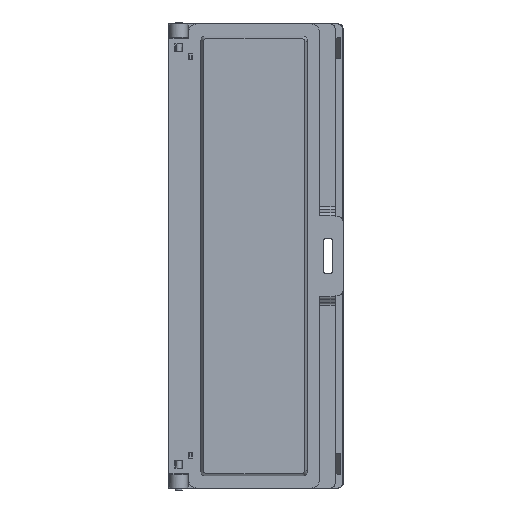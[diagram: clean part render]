
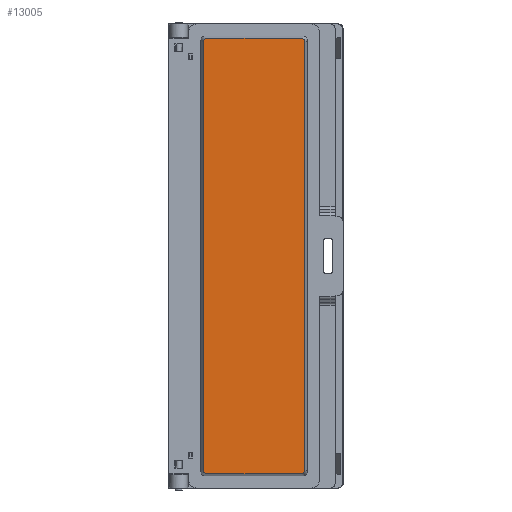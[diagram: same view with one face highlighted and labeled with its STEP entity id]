
A CAD part, front view. The second image highlights one B-rep face of the part: STEP entity #13005.
In plain terms, the highlighted planar face has unit normal (0, -1, 0) as drawn and (0, 0, 1) by its records, which use the part's own axes.
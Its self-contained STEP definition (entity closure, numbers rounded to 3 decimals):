
#228 = LINE ( 'NONE', #4889, #21027 ) ;
#741 = AXIS2_PLACEMENT_3D ( 'NONE', #25231, #2437, #17000 ) ;
#903 = CARTESIAN_POINT ( 'NONE',  ( 0., 109.8, 14.3 ) ) ;
#1207 = CARTESIAN_POINT ( 'NONE',  ( -25.7, -109.015, 14.3 ) ) ;
#1870 = CARTESIAN_POINT ( 'NONE',  ( -23.768, 109.8, 14.3 ) ) ;
#2437 = DIRECTION ( 'NONE',  ( 0., 0., -1. ) ) ;
#2567 = CARTESIAN_POINT ( 'NONE',  ( -23.768, -109.8, 14.3 ) ) ;
#2978 = CARTESIAN_POINT ( 'NONE',  ( 24.915, -109.8, 14.3 ) ) ;
#3003 = DIRECTION ( 'NONE',  ( 1., 0., 0. ) ) ;
#3312 = EDGE_CURVE ( 'NONE', #6453, #6881, #14289, .T. ) ;
#4058 = CARTESIAN_POINT ( 'NONE',  ( 23.768, 109.8, 14.3 ) ) ;
#4110 = CARTESIAN_POINT ( 'NONE',  ( 24.915, 109.8, 14.3 ) ) ;
#4489 = EDGE_CURVE ( 'NONE', #14171, #12780, #23974, .T. ) ;
#4566 = CARTESIAN_POINT ( 'NONE',  ( 25.7, 107.868, 14.3 ) ) ;
#4719 = LINE ( 'NONE', #6688, #16459 ) ;
#4731 = CARTESIAN_POINT ( 'NONE',  ( -25.7, 107.868, 14.3 ) ) ;
#4849 = EDGE_CURVE ( 'NONE', #23314, #14556, #228, .T. ) ;
#4882 = CARTESIAN_POINT ( 'NONE',  ( 25.7, -107.868, 14.3 ) ) ;
#4889 = CARTESIAN_POINT ( 'NONE',  ( 0., -109.8, 14.3 ) ) ;
#5262 = DIRECTION ( 'NONE',  ( -1., 0., 0. ) ) ;
#5378 = CARTESIAN_POINT ( 'NONE',  ( -24.915, -109.8, 14.3 ) ) ;
#6043 = CARTESIAN_POINT ( 'NONE',  ( -25.7, 107.868, 14.3 ) ) ;
#6357 = VERTEX_POINT ( 'NONE', #4882 ) ;
#6453 = VERTEX_POINT ( 'NONE', #7890 ) ;
#6615 = EDGE_CURVE ( 'NONE', #6453, #14556, #12014, .T. ) ;
#6688 = CARTESIAN_POINT ( 'NONE',  ( 25.7, 0., 14.3 ) ) ;
#6881 = VERTEX_POINT ( 'NONE', #4731 ) ;
#7149 = CARTESIAN_POINT ( 'NONE',  ( 25.7, -107.868, 14.3 ) ) ;
#7890 = CARTESIAN_POINT ( 'NONE',  ( -25.7, -107.868, 14.3 ) ) ;
#8066 = VECTOR ( 'NONE', #21919, 1000. ) ;
#8311 = ORIENTED_EDGE ( 'NONE', *, *, #10597, .F. ) ;
#8333 = VERTEX_POINT ( 'NONE', #10050 ) ;
#8364 = EDGE_CURVE ( 'NONE', #8333, #6881, #19836, .T. ) ;
#9031 = ORIENTED_EDGE ( 'NONE', *, *, #3312, .F. ) ;
#10050 = CARTESIAN_POINT ( 'NONE',  ( -23.768, 109.8, 14.3 ) ) ;
#10365 = VECTOR ( 'NONE', #3003, 1000. ) ;
#10597 = EDGE_CURVE ( 'NONE', #8333, #12780, #21417, .T. ) ;
#11194 = ORIENTED_EDGE ( 'NONE', *, *, #4489, .T. ) ;
#12014 =( BOUNDED_CURVE ( )  B_SPLINE_CURVE ( 3, ( #26115, #1207, #5378, #19936 ),
 .UNSPECIFIED., .F., .T. ) 
 B_SPLINE_CURVE_WITH_KNOTS ( ( 4, 4 ),
 ( 2.39, 3.893 ),
 .UNSPECIFIED. ) 
 CURVE ( )  GEOMETRIC_REPRESENTATION_ITEM ( )  RATIONAL_B_SPLINE_CURVE ( ( 1., 0.82, 0.82, 1. ) ) 
 REPRESENTATION_ITEM ( '' )  );
#12780 = VERTEX_POINT ( 'NONE', #24263 ) ;
#13005 = ADVANCED_FACE ( 'NONE', ( #25030 ), #14915, .F. ) ;
#14171 = VERTEX_POINT ( 'NONE', #15445 ) ;
#14289 = LINE ( 'NONE', #21721, #8066 ) ;
#14369 = CARTESIAN_POINT ( 'NONE',  ( -24.915, 109.8, 14.3 ) ) ;
#14512 = ORIENTED_EDGE ( 'NONE', *, *, #19840, .F. ) ;
#14556 = VERTEX_POINT ( 'NONE', #2567 ) ;
#14915 = PLANE ( 'NONE',  #741 ) ;
#15284 = CARTESIAN_POINT ( 'NONE',  ( 23.768, -109.8, 14.3 ) ) ;
#15445 = CARTESIAN_POINT ( 'NONE',  ( 25.7, 107.868, 14.3 ) ) ;
#16001 = EDGE_LOOP ( 'NONE', ( #26903, #9031, #24549, #21320, #17710, #14512, #11194, #8311 ) ) ;
#16459 = VECTOR ( 'NONE', #21235, 1000. ) ;
#16548 = EDGE_CURVE ( 'NONE', #23314, #6357, #22825, .T. ) ;
#17000 = DIRECTION ( 'NONE',  ( -1., 0., 0. ) ) ;
#17710 = ORIENTED_EDGE ( 'NONE', *, *, #16548, .T. ) ;
#18508 = CARTESIAN_POINT ( 'NONE',  ( -25.7, 109.015, 14.3 ) ) ;
#18700 = CARTESIAN_POINT ( 'NONE',  ( 25.7, 109.015, 14.3 ) ) ;
#19614 = CARTESIAN_POINT ( 'NONE',  ( 25.7, -109.015, 14.3 ) ) ;
#19836 =( BOUNDED_CURVE ( )  B_SPLINE_CURVE ( 3, ( #1870, #14369, #18508, #6043 ),
 .UNSPECIFIED., .F., .F. ) 
 B_SPLINE_CURVE_WITH_KNOTS ( ( 4, 4 ),
 ( 2.39, 3.893 ),
 .UNSPECIFIED. ) 
 CURVE ( )  GEOMETRIC_REPRESENTATION_ITEM ( )  RATIONAL_B_SPLINE_CURVE ( ( 1., 0.82, 0.82, 1. ) ) 
 REPRESENTATION_ITEM ( '' )  );
#19840 = EDGE_CURVE ( 'NONE', #14171, #6357, #4719, .T. ) ;
#19936 = CARTESIAN_POINT ( 'NONE',  ( -23.768, -109.8, 14.3 ) ) ;
#21027 = VECTOR ( 'NONE', #5262, 1000. ) ;
#21235 = DIRECTION ( 'NONE',  ( 0., -1., 0. ) ) ;
#21320 = ORIENTED_EDGE ( 'NONE', *, *, #4849, .F. ) ;
#21417 = LINE ( 'NONE', #903, #10365 ) ;
#21721 = CARTESIAN_POINT ( 'NONE',  ( -25.7, 0., 14.3 ) ) ;
#21919 = DIRECTION ( 'NONE',  ( 0., 1., 0. ) ) ;
#22610 = CARTESIAN_POINT ( 'NONE',  ( 23.768, -109.8, 14.3 ) ) ;
#22825 =( BOUNDED_CURVE ( )  B_SPLINE_CURVE ( 3, ( #15284, #2978, #19614, #7149 ),
 .UNSPECIFIED., .F., .T. ) 
 B_SPLINE_CURVE_WITH_KNOTS ( ( 4, 4 ),
 ( 2.39, 3.893 ),
 .UNSPECIFIED. ) 
 CURVE ( )  GEOMETRIC_REPRESENTATION_ITEM ( )  RATIONAL_B_SPLINE_CURVE ( ( 1., 0.82, 0.82, 1. ) ) 
 REPRESENTATION_ITEM ( '' )  );
#23314 = VERTEX_POINT ( 'NONE', #22610 ) ;
#23974 =( BOUNDED_CURVE ( )  B_SPLINE_CURVE ( 3, ( #4566, #18700, #4110, #4058 ),
 .UNSPECIFIED., .F., .F. ) 
 B_SPLINE_CURVE_WITH_KNOTS ( ( 4, 4 ),
 ( 2.39, 3.893 ),
 .UNSPECIFIED. ) 
 CURVE ( )  GEOMETRIC_REPRESENTATION_ITEM ( )  RATIONAL_B_SPLINE_CURVE ( ( 1., 0.82, 0.82, 1. ) ) 
 REPRESENTATION_ITEM ( '' )  );
#24263 = CARTESIAN_POINT ( 'NONE',  ( 23.768, 109.8, 14.3 ) ) ;
#24549 = ORIENTED_EDGE ( 'NONE', *, *, #6615, .T. ) ;
#25030 = FACE_OUTER_BOUND ( 'NONE', #16001, .T. ) ;
#25231 = CARTESIAN_POINT ( 'NONE',  ( 25.7, -109.8, 14.3 ) ) ;
#26115 = CARTESIAN_POINT ( 'NONE',  ( -25.7, -107.868, 14.3 ) ) ;
#26903 = ORIENTED_EDGE ( 'NONE', *, *, #8364, .T. ) ;
